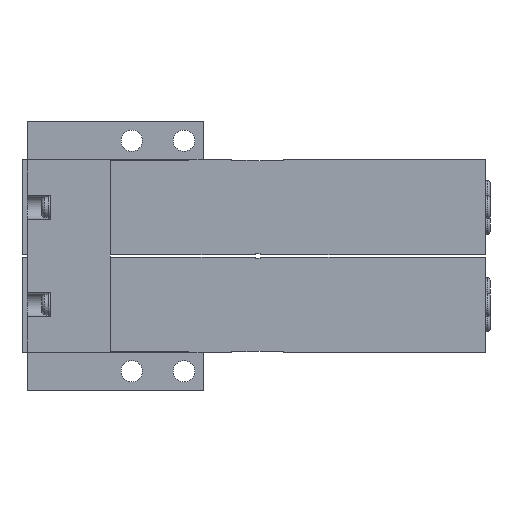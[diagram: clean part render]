
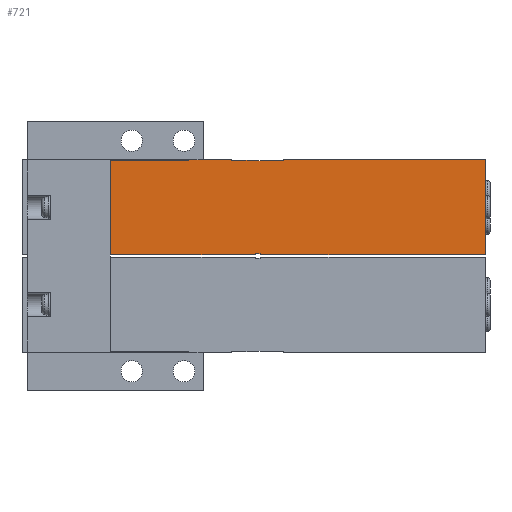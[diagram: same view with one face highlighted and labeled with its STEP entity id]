
A CAD part, front view. The second image highlights one B-rep face of the part: STEP entity #721.
In plain terms, the highlighted planar face has unit normal (0, -1, 0).
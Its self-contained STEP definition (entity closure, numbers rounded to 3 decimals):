
#721=ADVANCED_FACE('',(#2297),#2298,.F.);
#2297=FACE_OUTER_BOUND('',#5088,.T.);
#2298=PLANE('',#5089);
#5088=EDGE_LOOP('',(#9792,#9793,#9794,#9795,#9796,#9797,#9798,#9799,#9800,#9801,#9802,#9803,#9804,#9805,#9806,#9807,#9808,#9809,#9810,#9811,#9812,#9813,#9814,#9815));
#5089=AXIS2_PLACEMENT_3D('',#9816,#9817,#9818);
#9792=ORIENTED_EDGE('',*,*,#17911,.F.);
#9793=ORIENTED_EDGE('',*,*,#17847,.T.);
#9794=ORIENTED_EDGE('',*,*,#17721,.T.);
#9795=ORIENTED_EDGE('',*,*,#17904,.F.);
#9796=ORIENTED_EDGE('',*,*,#17912,.F.);
#9797=ORIENTED_EDGE('',*,*,#17913,.T.);
#9798=ORIENTED_EDGE('',*,*,#17914,.F.);
#9799=ORIENTED_EDGE('',*,*,#17883,.T.);
#9800=ORIENTED_EDGE('',*,*,#17739,.F.);
#9801=ORIENTED_EDGE('',*,*,#17915,.T.);
#9802=ORIENTED_EDGE('',*,*,#17916,.T.);
#9803=ORIENTED_EDGE('',*,*,#17917,.T.);
#9804=ORIENTED_EDGE('',*,*,#17781,.T.);
#9805=ORIENTED_EDGE('',*,*,#17918,.F.);
#9806=ORIENTED_EDGE('',*,*,#17919,.T.);
#9807=ORIENTED_EDGE('',*,*,#17906,.F.);
#9808=ORIENTED_EDGE('',*,*,#17920,.T.);
#9809=ORIENTED_EDGE('',*,*,#17845,.T.);
#9810=ORIENTED_EDGE('',*,*,#17921,.T.);
#9811=ORIENTED_EDGE('',*,*,#17922,.T.);
#9812=ORIENTED_EDGE('',*,*,#17754,.T.);
#9813=ORIENTED_EDGE('',*,*,#17706,.F.);
#9814=ORIENTED_EDGE('',*,*,#17829,.F.);
#9815=ORIENTED_EDGE('',*,*,#17923,.F.);
#9816=CARTESIAN_POINT('',(18.6,0.0,10.0));
#9817=DIRECTION('',(-0.0,1.0,0.0));
#9818=DIRECTION('',(1.0,0.0,0.0));
#17706=EDGE_CURVE('',#21517,#21512,#21519,.T.);
#17721=EDGE_CURVE('',#21542,#21546,#21548,.T.);
#17739=EDGE_CURVE('',#21582,#21584,#21585,.T.);
#17754=EDGE_CURVE('',#21602,#21512,#21612,.T.);
#17781=EDGE_CURVE('',#21661,#21659,#21662,.T.);
#17829=EDGE_CURVE('',#21742,#21517,#21744,.T.);
#17845=EDGE_CURVE('',#21769,#21767,#21770,.T.);
#17847=EDGE_CURVE('',#21762,#21542,#21772,.T.);
#17883=EDGE_CURVE('',#21827,#21584,#21828,.T.);
#17904=EDGE_CURVE('',#21860,#21546,#21861,.T.);
#17906=EDGE_CURVE('',#21862,#21864,#21865,.T.);
#17911=EDGE_CURVE('',#21762,#21872,#21873,.T.);
#17912=EDGE_CURVE('',#21874,#21860,#21875,.T.);
#17913=EDGE_CURVE('',#21874,#21876,#21877,.T.);
#17914=EDGE_CURVE('',#21827,#21876,#21878,.T.);
#17915=EDGE_CURVE('',#21582,#21879,#21880,.T.);
#17916=EDGE_CURVE('',#21879,#21881,#21882,.T.);
#17917=EDGE_CURVE('',#21881,#21661,#21883,.T.);
#17918=EDGE_CURVE('',#21884,#21659,#21885,.T.);
#17919=EDGE_CURVE('',#21884,#21864,#21886,.T.);
#17920=EDGE_CURVE('',#21862,#21769,#21887,.T.);
#17921=EDGE_CURVE('',#21767,#21888,#21889,.T.);
#17922=EDGE_CURVE('',#21888,#21602,#21890,.T.);
#17923=EDGE_CURVE('',#21872,#21742,#21891,.T.);
#21512=VERTEX_POINT('',#27317);
#21517=VERTEX_POINT('',#27324);
#21519=LINE('',#27327,#27328);
#21542=VERTEX_POINT('',#27360);
#21546=VERTEX_POINT('',#27366);
#21548=LINE('',#27369,#27370);
#21582=VERTEX_POINT('',#27420);
#21584=VERTEX_POINT('',#27423);
#21585=LINE('',#27424,#27425);
#21602=VERTEX_POINT('',#27451);
#21612=LINE('',#27466,#27467);
#21659=VERTEX_POINT('',#27534);
#21661=VERTEX_POINT('',#27537);
#21662=LINE('',#27538,#27539);
#21742=VERTEX_POINT('',#27680);
#21744=LINE('',#27683,#27684);
#21762=VERTEX_POINT('',#27714);
#21767=VERTEX_POINT('',#27721);
#21769=VERTEX_POINT('',#27724);
#21770=LINE('',#27725,#27726);
#21772=LINE('',#27729,#27730);
#21827=VERTEX_POINT('',#27818);
#21828=LINE('',#27819,#27820);
#21860=VERTEX_POINT('',#27896);
#21861=LINE('',#27897,#27898);
#21862=VERTEX_POINT('',#27899);
#21864=VERTEX_POINT('',#27902);
#21865=LINE('',#27903,#27904);
#21872=VERTEX_POINT('',#27915);
#21873=LINE('',#27916,#27917);
#21874=VERTEX_POINT('',#27918);
#21875=LINE('',#27919,#27920);
#21876=VERTEX_POINT('',#27921);
#21877=LINE('',#27922,#27923);
#21878=LINE('',#27924,#27925);
#21879=VERTEX_POINT('',#27926);
#21880=LINE('',#27927,#27928);
#21881=VERTEX_POINT('',#27929);
#21882=LINE('',#27930,#27931);
#21883=LINE('',#27932,#27933);
#21884=VERTEX_POINT('',#27934);
#21885=LINE('',#27935,#27936);
#21886=LINE('',#27937,#27938);
#21887=LINE('',#27939,#27940);
#21888=VERTEX_POINT('',#27941);
#21889=LINE('',#27942,#27943);
#21890=LINE('',#27944,#27945);
#21891=LINE('',#27946,#27947);
#27317=CARTESIAN_POINT('',(97.6,0.0,-10.0));
#27324=CARTESIAN_POINT('',(97.6,0.0,10.0));
#27327=CARTESIAN_POINT('',(97.6,0.0,10.0));
#27328=VECTOR('',#34451,1.0);
#27360=CARTESIAN_POINT('',(50.1,0.0,9.8));
#27366=CARTESIAN_POINT('',(49.1,0.0,9.8));
#27369=CARTESIAN_POINT('',(18.6,0.0,9.8));
#27370=VECTOR('',#34470,1.0);
#27420=CARTESIAN_POINT('',(18.6,0.0,9.9));
#27423=CARTESIAN_POINT('',(35.1,0.0,9.9));
#27424=CARTESIAN_POINT('',(18.6,0.0,9.9));
#27425=VECTOR('',#34488,1.0);
#27451=CARTESIAN_POINT('',(55.1,0.0,-10.0));
#27466=CARTESIAN_POINT('',(18.6,0.0,-10.0));
#27467=VECTOR('',#34503,1.0);
#27534=CARTESIAN_POINT('',(44.1,0.0,-10.0));
#27537=CARTESIAN_POINT('',(35.1,0.0,-10.0));
#27538=CARTESIAN_POINT('',(18.6,0.0,-10.0));
#27539=VECTOR('',#34540,1.0);
#27680=CARTESIAN_POINT('',(55.1,0.0,10.0));
#27683=CARTESIAN_POINT('',(18.6,0.0,10.0));
#27684=VECTOR('',#34601,1.0);
#27714=CARTESIAN_POINT('',(50.1,0.0,9.9));
#27721=CARTESIAN_POINT('',(50.1,0.0,-9.9));
#27724=CARTESIAN_POINT('',(50.1,0.0,-9.8));
#27725=CARTESIAN_POINT('',(50.1,0.0,10.0));
#27726=VECTOR('',#34617,1.0);
#27729=CARTESIAN_POINT('',(50.1,0.0,10.0));
#27730=VECTOR('',#34619,1.0);
#27818=CARTESIAN_POINT('',(35.1,0.0,10.0));
#27819=CARTESIAN_POINT('',(35.1,0.0,10.1));
#27820=VECTOR('',#34656,1.0);
#27896=CARTESIAN_POINT('',(49.1,0.0,9.9));
#27897=CARTESIAN_POINT('',(49.1,0.0,10.0));
#27898=VECTOR('',#34680,1.0);
#27899=CARTESIAN_POINT('',(49.1,0.0,-9.8));
#27902=CARTESIAN_POINT('',(49.1,0.0,-9.9));
#27903=CARTESIAN_POINT('',(49.1,0.0,10.0));
#27904=VECTOR('',#34682,1.0);
#27915=CARTESIAN_POINT('',(55.1,0.0,9.9));
#27916=CARTESIAN_POINT('',(44.1,0.0,9.9));
#27917=VECTOR('',#34687,1.0);
#27918=CARTESIAN_POINT('',(44.1,0.0,9.9));
#27919=CARTESIAN_POINT('',(44.1,0.0,9.9));
#27920=VECTOR('',#34688,1.0);
#27921=CARTESIAN_POINT('',(44.1,0.0,10.0));
#27922=CARTESIAN_POINT('',(44.1,0.0,9.9));
#27923=VECTOR('',#34689,1.0);
#27924=CARTESIAN_POINT('',(18.6,0.0,10.0));
#27925=VECTOR('',#34690,1.0);
#27926=CARTESIAN_POINT('',(18.6,0.0,-9.9));
#27927=CARTESIAN_POINT('',(18.6,0.0,10.0));
#27928=VECTOR('',#34691,1.0);
#27929=CARTESIAN_POINT('',(35.1,0.0,-9.9));
#27930=CARTESIAN_POINT('',(18.6,0.0,-9.9));
#27931=VECTOR('',#34692,1.0);
#27932=CARTESIAN_POINT('',(35.1,0.0,-9.9));
#27933=VECTOR('',#34693,1.0);
#27934=CARTESIAN_POINT('',(44.1,0.0,-9.9));
#27935=CARTESIAN_POINT('',(44.1,0.0,-9.9));
#27936=VECTOR('',#34694,1.0);
#27937=CARTESIAN_POINT('',(44.1,0.0,-9.9));
#27938=VECTOR('',#34695,1.0);
#27939=CARTESIAN_POINT('',(18.6,0.0,-9.8));
#27940=VECTOR('',#34696,1.0);
#27941=CARTESIAN_POINT('',(55.1,0.0,-9.9));
#27942=CARTESIAN_POINT('',(44.1,0.0,-9.9));
#27943=VECTOR('',#34697,1.0);
#27944=CARTESIAN_POINT('',(55.1,0.0,-9.9));
#27945=VECTOR('',#34698,1.0);
#27946=CARTESIAN_POINT('',(55.1,0.0,9.9));
#27947=VECTOR('',#34699,1.0);
#34451=DIRECTION('',(0.0,0.0,-1.0));
#34470=DIRECTION('',(-1.0,0.0,0.0));
#34488=DIRECTION('',(1.0,0.0,0.0));
#34503=DIRECTION('',(1.0,0.0,0.0));
#34540=DIRECTION('',(1.0,0.0,0.0));
#34601=DIRECTION('',(1.0,0.0,0.0));
#34617=DIRECTION('',(0.0,0.0,-1.0));
#34619=DIRECTION('',(0.0,0.0,-1.0));
#34656=DIRECTION('',(0.0,0.0,-1.0));
#34680=DIRECTION('',(0.0,0.0,-1.0));
#34682=DIRECTION('',(0.0,0.0,-1.0));
#34687=DIRECTION('',(1.0,0.0,0.0));
#34688=DIRECTION('',(1.0,0.0,0.0));
#34689=DIRECTION('',(0.0,0.0,1.0));
#34690=DIRECTION('',(1.0,0.0,0.0));
#34691=DIRECTION('',(0.0,0.0,-1.0));
#34692=DIRECTION('',(1.0,0.0,0.0));
#34693=DIRECTION('',(0.0,0.0,-1.0));
#34694=DIRECTION('',(0.0,0.0,-1.0));
#34695=DIRECTION('',(1.0,0.0,0.0));
#34696=DIRECTION('',(1.0,0.0,0.0));
#34697=DIRECTION('',(1.0,0.0,0.0));
#34698=DIRECTION('',(0.0,0.0,-1.0));
#34699=DIRECTION('',(0.0,0.0,1.0));
